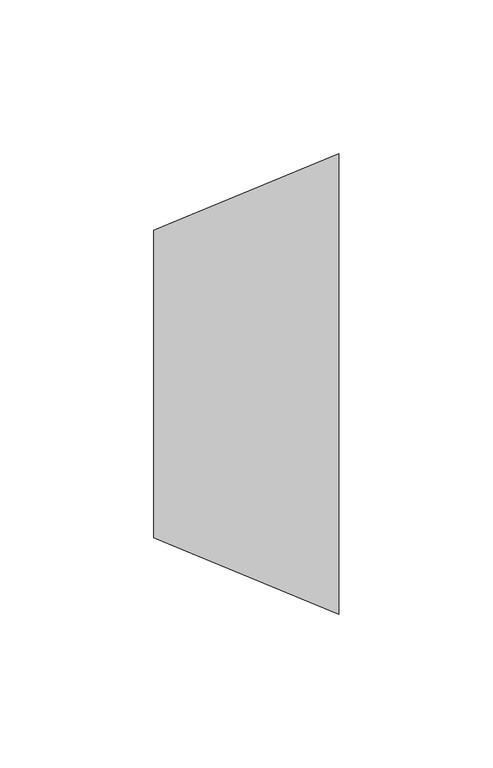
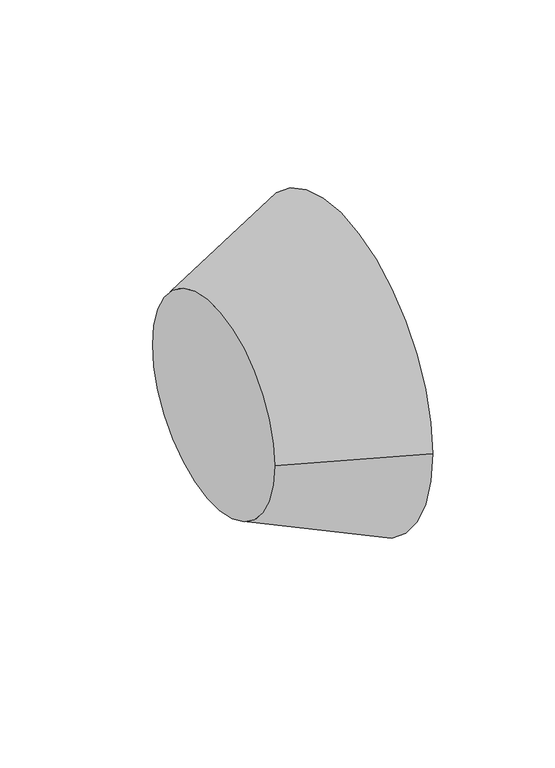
"""IFC4 building model written with IfcOpenShell, lengths in millimetres: duct fitting geometry, M_Transición redonda - Ángulo : EXT_45 graus."""

from ifc_helpers import new_model, si_unit, frame, origin, place, context, project, spatial, polyline, circle_curve, source, transform, mapped, element, save
from ifc_brep_helpers import plane_surface, revolved_surface, advanced_brep


def duct_fitting_c79161f8(model_context):
    return source(origin(), model_context, "Body", "AdvancedBrep", [
        advanced_brep(
        [(60.3553391, -75.0, 0.0), (60.3553391, 75.0, 0.0), (0.0, -50.0, 0.0), (0.0, 50.0, 0.0)],
        [
            (0, 1, circle_curve(frame((60.3553391, 0.0, 0.0), z_axis=(1.0, 0.0, 0.0), x_axis=(0.0, -1.0, 0.0)), 75.0)),
            (1, 0, circle_curve(frame((60.3553391, 0.0, 0.0), z_axis=(1.0, 0.0, 0.0), x_axis=(0.0, 1.0, 0.0)), 75.0)),
            (2, 3, circle_curve(frame((0.0, 0.0, 0.0), z_axis=(-1.0, 0.0, 0.0), x_axis=(0.0, 1.0, 0.0)), 50.0)),
            (3, 2, circle_curve(frame((0.0, 0.0, 0.0), z_axis=(-1.0, 0.0, 0.0), x_axis=(0.0, -1.0, 0.0)), 50.0)),
            (3, 1),
            (0, 2),
        ],
        [
            plane_surface(frame((60.3553391, 0.0, 0.0), z_axis=(1.0, 0.0, 0.0), x_axis=(0.0, 0.0, -1.0))),
            plane_surface(frame((0.0, 0.0, 0.0), z_axis=(-1.0, 0.0, 0.0), x_axis=(0.0, 0.0, -1.0))),
            revolved_surface(polyline([(-1.4210854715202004e-14, 49.999999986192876, 0.0), (60.35533910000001, 75.0, 0.0)]), (-120.7106781, 0.0, 0.0), (1.0, 0.0, 0.0)),
            revolved_surface(polyline([(-1.4210854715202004e-14, -49.999999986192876, 0.0), (60.35533910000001, -75.0, 0.0)]), (-120.7106781, 0.0, 0.0), (1.0, 0.0, 0.0)),
        ],
        [
            (0, [[1, 2]]),
            (1, [[3, 4]]),
            (2, [[-4, 5, -1, 6]]),
            (3, [[-3, -6, -2, -5]]),
        ],
    ),
    ])


if __name__ == "__main__":
    model = new_model("IFC4")
    model_context = context("Model", 3, world=origin())
    ifc_project = project(units=[si_unit("LENGTHUNIT", "METRE", prefix="MILLI")], contexts=[model_context])
    site = spatial("IfcSite", under=ifc_project)
    building = spatial("IfcBuilding", under=site)
    placement = place(None, origin())
    duct_fitting_shape = duct_fitting_c79161f8(model_context)
    element("IfcDuctFitting", 1, ObjectType="M_Transición redonda - Ángulo : EXT_45 graus", at=placement, inside=building, context=model_context, shape_type="MappedRepresentation", body=[
        mapped(duct_fitting_shape, transform((0.0, 0.0, 0.0), x_axis=(1.0, 0.0, 0.0), y_axis=(0.0, 1.0, 0.0), z_axis=(0.0, 0.0, 1.0))),
    ])
    save(model, "model.ifc")
